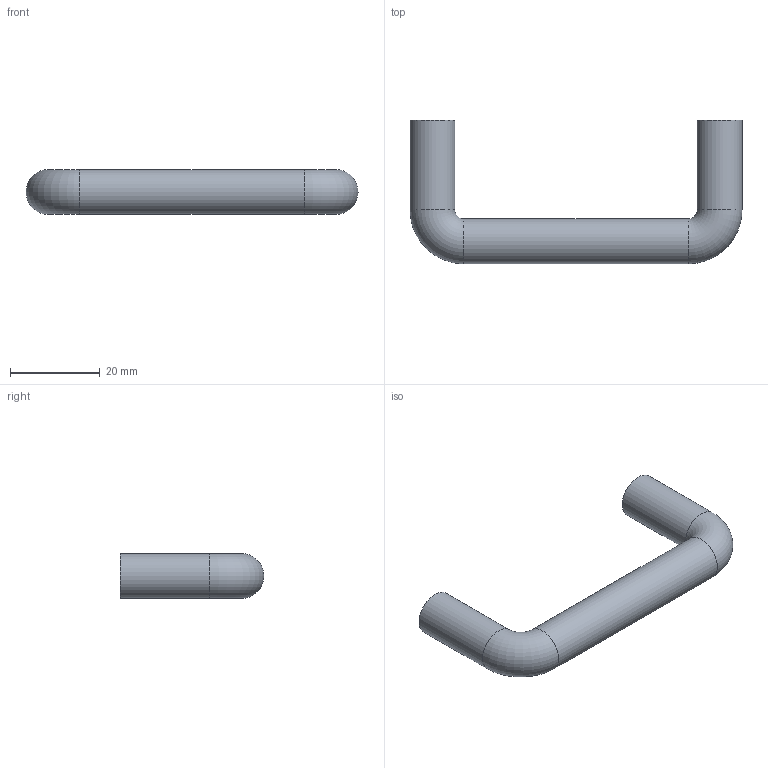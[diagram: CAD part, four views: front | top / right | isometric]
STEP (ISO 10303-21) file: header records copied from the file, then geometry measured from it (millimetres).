
FILE_DESCRIPTION( ( 'STEP AP214' ), '1' );
FILE_NAME( 'D:/Yug/2020/ProDecor_2020/QC/9070443.stp', '2020-05-29T08:00:49', ( '' ), ( '' ), ' ', 'PARTsolutions', ' ' );
FILE_SCHEMA( ( 'AUTOMOTIVE_DESIGN { 1 0 10303 214 1 1 1 1 }' ) );
Length unit declared in the file: millimetre
Products named in the file (1): _9070443
Bounding box: 74 x 32 x 10 mm (x, y, z)
Volume: 8619.8 mm3; surface area: 3851.3 mm2
Topology: 1 solids, 1 shells, 11 faces, 18 edges, 11 vertices
Faces by surface type: cylinder 5, plane 4, torus 2
Full cylindrical faces by diameter (mm): 4 x2, 10 x3
Entity records: 318 total; most frequent: DIRECTION 44, CARTESIAN_POINT 32, AXIS2_PLACEMENT_3D 22, EDGE_LOOP 20, ORIENTED_EDGE 20, FACE_OUTER_BOUND 18, STYLED_ITEM 11, PRESENTATION_STYLE_ASSIGNMENT 11
